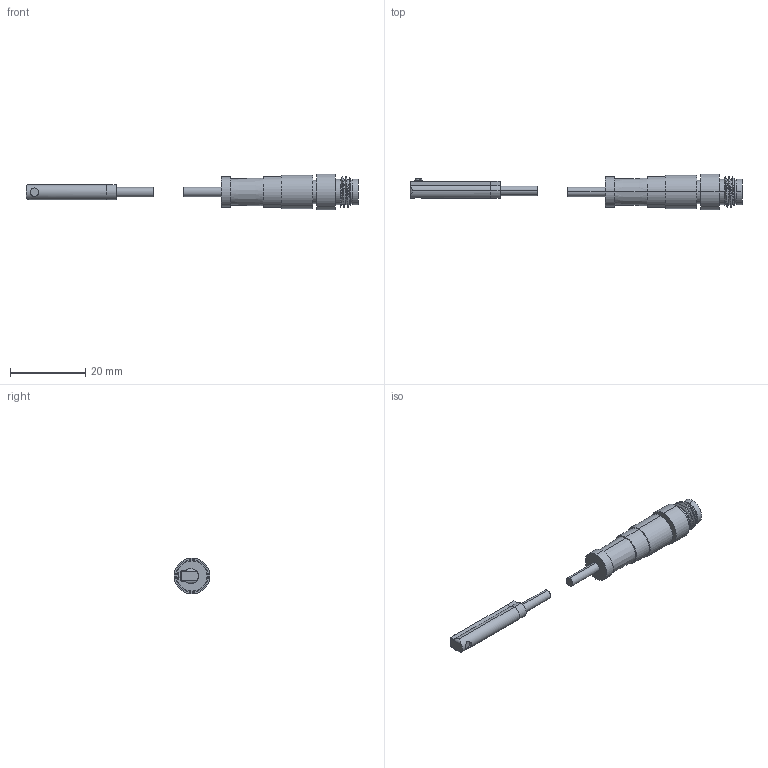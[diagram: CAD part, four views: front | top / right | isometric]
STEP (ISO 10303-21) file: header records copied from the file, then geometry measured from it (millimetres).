
FILE_DESCRIPTION (( 'STEP AP214' ), '1' );
FILE_NAME ('BMC蛌M8諉芛.STEP', '2025-06-11T02:52:25', ( '' ), ( '' ), 'SwSTEP 2.0', 'SolidWorks 2022', '' );
FILE_SCHEMA (( 'AUTOMOTIVE_DESIGN' ));
Length unit declared in the file: millimetre
Products named in the file (3): BMC直接出线; BMC转M8接头; M8接头
Assembly tree (2 placements, depth 2):
  BMC转M8接头
    BMC直接出线
    M8接头
Bounding box: 88.45 x 9.5 x 9.5 mm (x, y, z)
Volume: 2062.9 mm3; surface area: 1957.5 mm2
Topology: 3 solids, 3 shells, 98 faces, 225 edges, 148 vertices
Faces by surface type: cylinder 46, plane 38, cone 11, bspline 3
Entity records: 3562 total; most frequent: CARTESIAN_POINT 1233, DIRECTION 475, ORIENTED_EDGE 450, EDGE_CURVE 225, AXIS2_PLACEMENT_3D 189, VERTEX_POINT 148, EDGE_LOOP 113, ADVANCED_FACE 98
